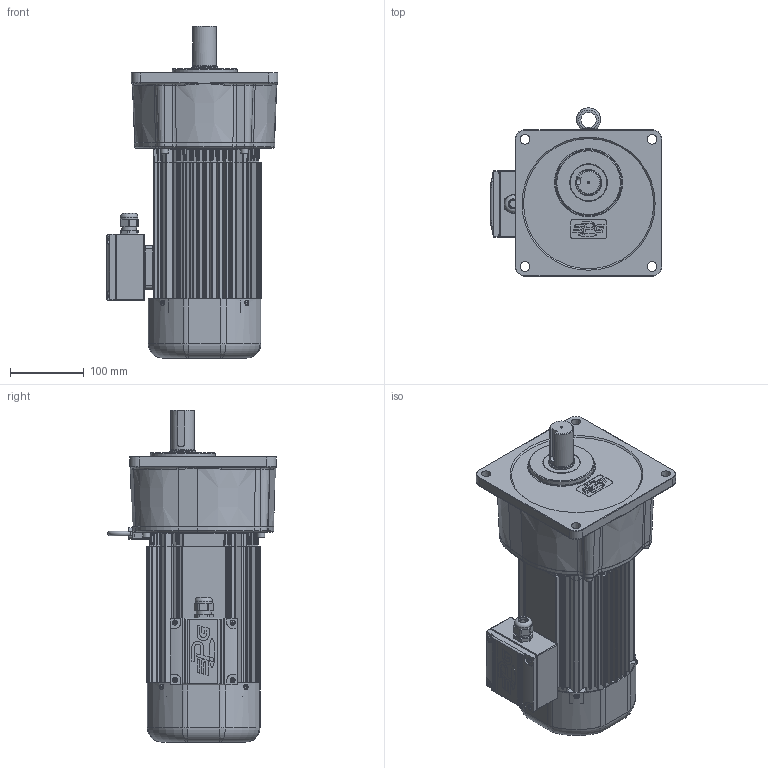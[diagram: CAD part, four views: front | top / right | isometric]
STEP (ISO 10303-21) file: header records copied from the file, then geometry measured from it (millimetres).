
FILE_DESCRIPTION(/* description */ (''),/* implementation_level */ '2;1');
FILE_NAME(/* name */ 'Z:\동력 3D 파일\PAK32_0.75kW_Brake_3D.stp',/* time_stamp */ '2021-11-09T09:01:48+09:00',/* author */ ('jaebok'),/* organization */ (''),/* preprocessor_version */ 'ST-DEVELOPER v18.1',/* originating_system */ 'Autodesk Inventor 2022',/* authorisation */ '');
FILE_SCHEMA (('AUTOMOTIVE_DESIGN { 1 0 10303 214 3 1 1 }'));
Products named in the file (1): 부품16
Bounding box: 232 x 227.8 x 449 mm (x, y, z)
Volume: 2929600.5 mm3; surface area: 804800.6 mm2
Topology: 1 solids, 28 shells, 3464 faces, 8782 edges, 5207 vertices
Faces by surface type: plane 1070, cylinder 953, bspline 849, torus 312, cone 178, sphere 102
Full cylindrical faces by diameter (mm): 2 x2, 3.25 x1, 3.6 x4, 4 x18, 4.917 x4, 5 x20, 6 x5, 6.647 x1, 6.8 x4, 7 x13, 8 x5, 9.5 x4, 10 x5, 12.5 x1, 15 x1, 20 x2, 20.6 x1, 21 x2, 21.8 x1, 22 x1, 23.6 x1, 25 x1, 28 x1, 30 x1, 31.8 x2, 32 x2, 34.8 x1, 35 x6, 36 x1, 37 x1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
Entity records: 137227 total; most frequent: CARTESIAN_POINT 55667, ORIENTED_EDGE 17088, DIRECTION 15404, EDGE_CURVE 8544, AXIS2_PLACEMENT_3D 6188, VERTEX_POINT 5202, EDGE_LOOP 3665, CIRCLE 3466
